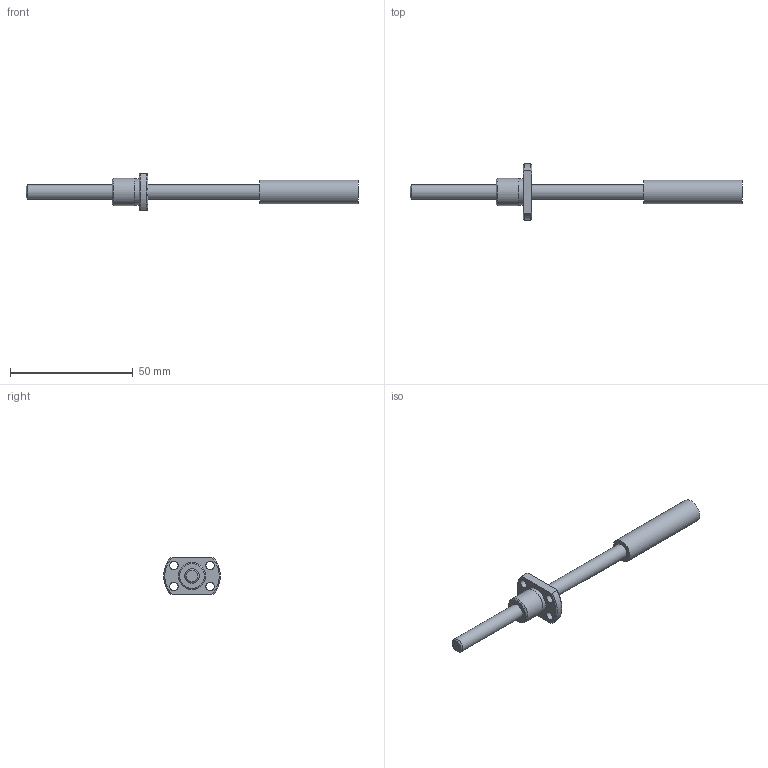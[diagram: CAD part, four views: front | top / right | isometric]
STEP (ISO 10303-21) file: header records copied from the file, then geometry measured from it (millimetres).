
FILE_DESCRIPTION(/* description */ ('STEP AP214'),/* implementation_level */ '2;1');
FILE_NAME(/* name */ 'SRT0601K-91R135C10A0X(A35None0X)',/* time_stamp */ '2026-08-04T17:54:20+02:00',/* author */ ('License CC BY-ND 4.0'),/* organization */ ('CADENAS'),/* preprocessor_version */ 'ST-DEVELOPER v20',/* originating_system */ 'PARTsolutions',/* authorisation */ ' ');
FILE_SCHEMA (('AUTOMOTIVE_DESIGN {1 0 10303 214 3 1 1}'));
Length unit declared in the file: millimetre
Products named in the file (3): SRT0601K-91R135C10A0X(A35None0X); 4ANone135; SR0601K_nut
Assembly tree (2 placements, depth 2):
  SRT0601K-91R135C10A0X(A35None0X)
    4ANone135
    SR0601K_nut
Bounding box: 135 x 22.93 x 15 mm (x, y, z)
Volume: 7240 mm3; surface area: 4681 mm2
Topology: 2 solids, 2 shells, 26 faces, 55 edges, 36 vertices
Faces by surface type: cylinder 11, plane 9, cone 6
Full cylindrical faces by diameter (mm): 3.4 x4, 6 x2, 9.7 x1, 10.6 x1, 11 x1
Entity records: 759 total; most frequent: CARTESIAN_POINT 133, DIRECTION 122, ORIENTED_EDGE 88, AXIS2_PLACEMENT_3D 57, EDGE_LOOP 50, FACE_BOUND 50, EDGE_CURVE 44, VERTEX_POINT 36
